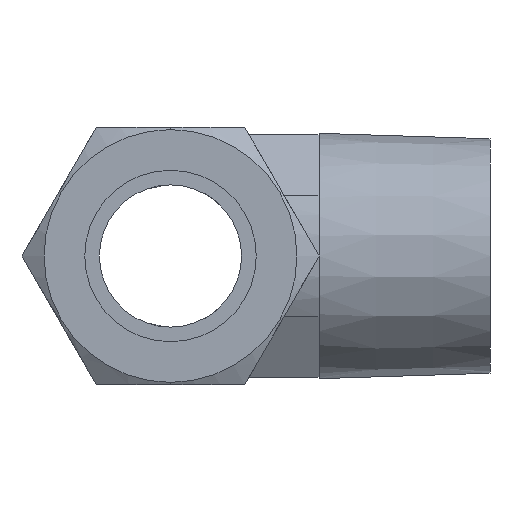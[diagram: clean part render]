
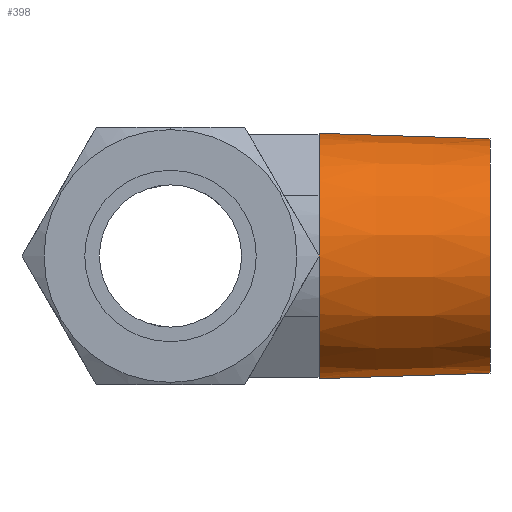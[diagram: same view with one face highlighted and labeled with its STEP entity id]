
A CAD part, left-side view. The second image highlights one B-rep face of the part: STEP entity #398.
In plain terms, the highlighted conical face has half-angle 1.8 degrees and reference radius 13.3 mm.
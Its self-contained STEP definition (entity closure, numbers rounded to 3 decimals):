
#376 = EDGE_CURVE ( 'NONE', #384, #381, #1416, .T. ) ;
#377 = ORIENTED_EDGE ( 'NONE', *, *, #376, .T. ) ;
#378 = ORIENTED_EDGE ( 'NONE', *, *, #379, .F. ) ;
#379 = EDGE_CURVE ( 'NONE', #403, #381, #1411, .T. ) ;
#381 = VERTEX_POINT ( 'NONE', #1406 ) ;
#382 = ORIENTED_EDGE ( 'NONE', *, *, #383, .T. ) ;
#383 = EDGE_CURVE ( 'NONE', #387, #384, #1400, .T. ) ;
#384 = VERTEX_POINT ( 'NONE', #1395 ) ;
#385 = ORIENTED_EDGE ( 'NONE', *, *, #386, .T. ) ;
#386 = EDGE_CURVE ( 'NONE', #2630, #387, #1394, .T. ) ;
#387 = VERTEX_POINT ( 'NONE', #1389 ) ;
#389 = ORIENTED_EDGE ( 'NONE', *, *, #390, .T. ) ;
#390 = EDGE_CURVE ( 'NONE', #392, #2630, #1388, .T. ) ;
#391 = EDGE_CURVE ( 'NONE', #406, #392, #1447, .T. ) ;
#392 = VERTEX_POINT ( 'NONE', #1442 ) ;
#398 = ADVANCED_FACE ( 'NONE', ( #1435 ), #1434, .T. ) ;
#399 = EDGE_LOOP ( 'NONE', ( #400, #404, #407, #389, #385, #382, #377, #378 ) ) ;
#400 = ORIENTED_EDGE ( 'NONE', *, *, #401, .F. ) ;
#401 = EDGE_CURVE ( 'NONE', #402, #403, #1429, .T. ) ;
#402 = VERTEX_POINT ( 'NONE', #1424 ) ;
#403 = VERTEX_POINT ( 'NONE', #1423 ) ;
#404 = ORIENTED_EDGE ( 'NONE', *, *, #405, .T. ) ;
#405 = EDGE_CURVE ( 'NONE', #402, #406, #1422, .T. ) ;
#406 = VERTEX_POINT ( 'NONE', #1418 ) ;
#407 = ORIENTED_EDGE ( 'NONE', *, *, #391, .T. ) ;
#1384 = DIRECTION ( 'NONE',  ( 0., 0., -1. ) ) ;
#1385 = DIRECTION ( 'NONE',  ( 0., -1., 0. ) ) ;
#1386 = CARTESIAN_POINT ( 'NONE',  ( 0., -16.5, 0. ) ) ;
#1387 = AXIS2_PLACEMENT_3D ( 'NONE', #1386, #1385, #1384 ) ;
#1388 = CIRCLE ( 'NONE', #1387, 13.627 ) ;
#1389 = CARTESIAN_POINT ( 'NONE',  ( -10.765, -16.5, -8.354 ) ) ;
#1390 = DIRECTION ( 'NONE',  ( 0., 0., -1. ) ) ;
#1391 = DIRECTION ( 'NONE',  ( 0., -1., 0. ) ) ;
#1392 = CARTESIAN_POINT ( 'NONE',  ( 0., -16.5, 0. ) ) ;
#1393 = AXIS2_PLACEMENT_3D ( 'NONE', #1392, #1391, #1390 ) ;
#1394 = CIRCLE ( 'NONE', #1393, 13.627 ) ;
#1395 = CARTESIAN_POINT ( 'NONE',  ( -1.853, -16.5, -13.5 ) ) ;
#1396 = DIRECTION ( 'NONE',  ( 0., 0., -1. ) ) ;
#1397 = DIRECTION ( 'NONE',  ( 0., -1., 0. ) ) ;
#1398 = CARTESIAN_POINT ( 'NONE',  ( 0., -16.5, 0. ) ) ;
#1399 = AXIS2_PLACEMENT_3D ( 'NONE', #1398, #1397, #1396 ) ;
#1400 = CIRCLE ( 'NONE', #1399, 13.627 ) ;
#1406 = CARTESIAN_POINT ( 'NONE',  ( 0., -16.5, -13.627 ) ) ;
#1408 = DIRECTION ( 'NONE',  ( 0., 1., -0.031 ) ) ;
#1409 = VECTOR ( 'NONE', #1408, 1000. ) ;
#1410 = CARTESIAN_POINT ( 'NONE',  ( 0., -26.89, -13.3 ) ) ;
#1411 = LINE ( 'NONE', #1410, #1409 ) ;
#1412 = DIRECTION ( 'NONE',  ( 0., 0., -1. ) ) ;
#1413 = DIRECTION ( 'NONE',  ( 0., -1., 0. ) ) ;
#1414 = CARTESIAN_POINT ( 'NONE',  ( 0., -16.5, 0. ) ) ;
#1415 = AXIS2_PLACEMENT_3D ( 'NONE', #1414, #1413, #1412 ) ;
#1416 = CIRCLE ( 'NONE', #1415, 13.627 ) ;
#1418 = CARTESIAN_POINT ( 'NONE',  ( 0., -16.5, 13.627 ) ) ;
#1419 = DIRECTION ( 'NONE',  ( 0., 1., 0.031 ) ) ;
#1420 = VECTOR ( 'NONE', #1419, 1000. ) ;
#1421 = CARTESIAN_POINT ( 'NONE',  ( 0., -26.89, 13.3 ) ) ;
#1422 = LINE ( 'NONE', #1421, #1420 ) ;
#1423 = CARTESIAN_POINT ( 'NONE',  ( 0., -35.5, -13.029 ) ) ;
#1424 = CARTESIAN_POINT ( 'NONE',  ( 0., -35.5, 13.029 ) ) ;
#1425 = DIRECTION ( 'NONE',  ( 0., 0., -1. ) ) ;
#1426 = DIRECTION ( 'NONE',  ( 0., -1., 0. ) ) ;
#1427 = CARTESIAN_POINT ( 'NONE',  ( 0., -35.5, 0. ) ) ;
#1428 = AXIS2_PLACEMENT_3D ( 'NONE', #1427, #1426, #1425 ) ;
#1429 = CIRCLE ( 'NONE', #1428, 13.029 ) ;
#1430 = DIRECTION ( 'NONE',  ( 0., 0., -1. ) ) ;
#1431 = DIRECTION ( 'NONE',  ( 0., 1., 0. ) ) ;
#1432 = CARTESIAN_POINT ( 'NONE',  ( 0., -26.89, 0. ) ) ;
#1433 = AXIS2_PLACEMENT_3D ( 'NONE', #1432, #1431, #1430 ) ;
#1434 = CONICAL_SURFACE ( 'NONE', #1433, 13.3, 0.031 ) ;
#1435 = FACE_OUTER_BOUND ( 'NONE', #399, .T. ) ;
#1442 = CARTESIAN_POINT ( 'NONE',  ( -1.853, -16.5, 13.5 ) ) ;
#1443 = DIRECTION ( 'NONE',  ( 0., 0., -1. ) ) ;
#1444 = DIRECTION ( 'NONE',  ( 0., -1., 0. ) ) ;
#1445 = CARTESIAN_POINT ( 'NONE',  ( 0., -16.5, 0. ) ) ;
#1446 = AXIS2_PLACEMENT_3D ( 'NONE', #1445, #1444, #1443 ) ;
#1447 = CIRCLE ( 'NONE', #1446, 13.627 ) ;
#2093 = CARTESIAN_POINT ( 'NONE',  ( -10.765, -16.5, 8.354 ) ) ;
#2630 = VERTEX_POINT ( 'NONE', #2093 ) ;
